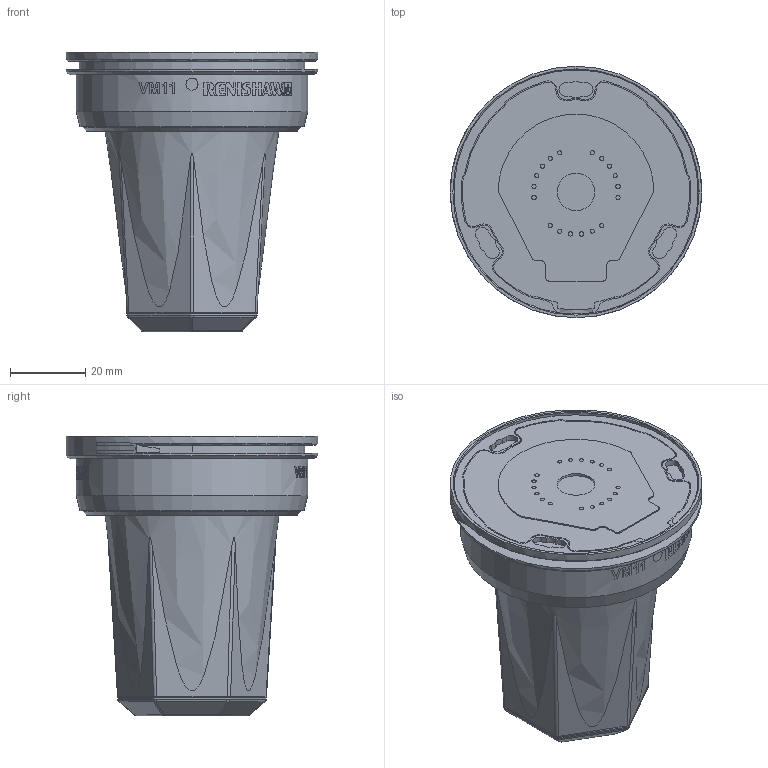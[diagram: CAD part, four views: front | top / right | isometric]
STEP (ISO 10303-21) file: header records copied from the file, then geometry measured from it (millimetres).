
FILE_DESCRIPTION(/* description */ (''),/* implementation_level */ '2;1');
FILE_NAME(/* name */ 'LA_5378_5200_A.stp',/* time_stamp */ '2015-02-03T08:35:22+00:00',/* author */ (''),/* organization */ (''),/* preprocessor_version */ 'ST-DEVELOPER v11',/* originating_system */ 'SIEMENS PLM Software NX 7.5',/* authorisation */ '');
FILE_SCHEMA (('AUTOMOTIVE_DESIGN { 1 0 10303 214 1 1 1 1 }'));
Length unit declared in the file: millimetre
Products named in the file (1): ss13ED4A6rq9
Bounding box: 66.8 x 66.8 x 74.34 mm (x, y, z)
Volume: 127879.8 mm3; surface area: 18078.8 mm2
Topology: 1 solids, 1 shells, 260 faces, 867 edges, 696 vertices
Faces by surface type: cylinder 123, plane 86, sphere 22, bspline 12, torus 11, cone 6
Full cylindrical faces by diameter (mm): 3.2 x10, 10 x2, 57.95 x1, 61.5 x1, 64.9 x1, 66.8 x1
Entity records: 12383 total; most frequent: CARTESIAN_POINT 3549, ORIENTED_EDGE 1586, DIRECTION 1168, EDGE_CURVE 793, VERTEX_POINT 671, AXIS2_PLACEMENT_3D 493, EDGE_LOOP 396, B_SPLINE_CURVE_WITH_KNOTS 355
